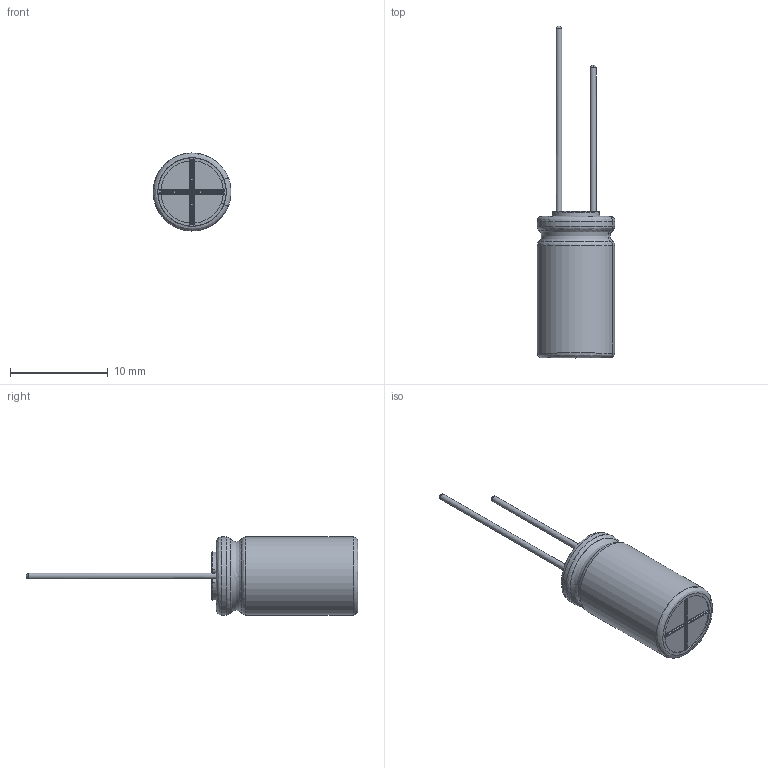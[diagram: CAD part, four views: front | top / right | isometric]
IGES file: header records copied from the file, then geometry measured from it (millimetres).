
Start section: JAMA-IS VERSION  1.0
Bounding box: 7.99 x 34 x 8 mm (x, y, z)
Surface area: 1302.4 mm2 (no closed solid volume)
Topology: 0 solids, 0 shells, 115 faces, 1347 edges, 1328 vertices
Faces by surface type: bspline 115
